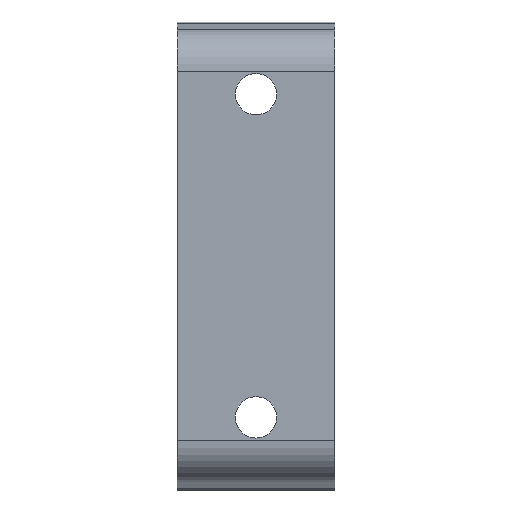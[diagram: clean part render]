
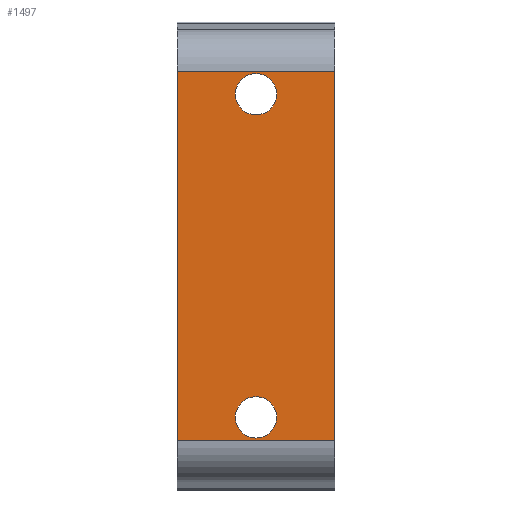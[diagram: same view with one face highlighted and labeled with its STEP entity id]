
A CAD part, top view. The second image highlights one B-rep face of the part: STEP entity #1497.
In plain terms, the highlighted planar face has unit normal (0, 0, 1).
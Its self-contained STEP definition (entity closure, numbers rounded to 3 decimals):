
#140 = VERTEX_POINT('',#141);
#141 = CARTESIAN_POINT('',(7.675,-12.5,0.75));
#147 = EDGE_CURVE('',#140,#140,#148,.T.);
#148 = CIRCLE('',#149,1.6);
#149 = AXIS2_PLACEMENT_3D('',#150,#151,#152);
#150 = CARTESIAN_POINT('',(6.075,-12.5,0.75));
#151 = DIRECTION('',(0.,0.,1.));
#152 = DIRECTION('',(-1.,0.,0.));
#651 = VERTEX_POINT('',#652);
#652 = CARTESIAN_POINT('',(0.,-14.273,0.75));
#681 = VERTEX_POINT('',#682);
#682 = CARTESIAN_POINT('',(12.15,-14.273,0.75));
#689 = EDGE_CURVE('',#681,#651,#690,.T.);
#690 = LINE('',#691,#692);
#691 = CARTESIAN_POINT('',(3.038,-14.273,0.75));
#692 = VECTOR('',#693,1.);
#693 = DIRECTION('',(-1.,0.,0.));
#753 = VERTEX_POINT('',#754);
#754 = CARTESIAN_POINT('',(12.15,14.273,0.75));
#760 = EDGE_CURVE('',#753,#681,#761,.T.);
#761 = LINE('',#762,#763);
#762 = CARTESIAN_POINT('',(12.15,0.,0.75));
#763 = VECTOR('',#764,1.);
#764 = DIRECTION('',(0.,-1.,0.));
#923 = VERTEX_POINT('',#924);
#924 = CARTESIAN_POINT('',(7.675,12.5,0.75));
#930 = EDGE_CURVE('',#923,#923,#931,.T.);
#931 = CIRCLE('',#932,1.6);
#932 = AXIS2_PLACEMENT_3D('',#933,#934,#935);
#933 = CARTESIAN_POINT('',(6.075,12.5,0.75));
#934 = DIRECTION('',(0.,0.,-1.));
#935 = DIRECTION('',(-1.,0.,0.));
#1410 = VERTEX_POINT('',#1411);
#1411 = CARTESIAN_POINT('',(0.,14.273,0.75));
#1418 = EDGE_CURVE('',#753,#1410,#1419,.T.);
#1419 = LINE('',#1420,#1421);
#1420 = CARTESIAN_POINT('',(3.038,14.273,0.75));
#1421 = VECTOR('',#1422,1.);
#1422 = DIRECTION('',(-1.,0.,0.));
#1497 = ADVANCED_FACE('',(#1498,#1509,#1512),#1515,.T.);
#1498 = FACE_BOUND('',#1499,.T.);
#1499 = EDGE_LOOP('',(#1500,#1501,#1507,#1508));
#1500 = ORIENTED_EDGE('',*,*,#1418,.T.);
#1501 = ORIENTED_EDGE('',*,*,#1502,.T.);
#1502 = EDGE_CURVE('',#1410,#651,#1503,.T.);
#1503 = LINE('',#1504,#1505);
#1504 = CARTESIAN_POINT('',(0.,17.,0.75));
#1505 = VECTOR('',#1506,1.);
#1506 = DIRECTION('',(0.,-1.,0.));
#1507 = ORIENTED_EDGE('',*,*,#689,.F.);
#1508 = ORIENTED_EDGE('',*,*,#760,.F.);
#1509 = FACE_BOUND('',#1510,.T.);
#1510 = EDGE_LOOP('',(#1511));
#1511 = ORIENTED_EDGE('',*,*,#147,.F.);
#1512 = FACE_BOUND('',#1513,.T.);
#1513 = EDGE_LOOP('',(#1514));
#1514 = ORIENTED_EDGE('',*,*,#930,.T.);
#1515 = PLANE('',#1516);
#1516 = AXIS2_PLACEMENT_3D('',#1517,#1518,#1519);
#1517 = CARTESIAN_POINT('',(6.075,8.5,0.75));
#1518 = DIRECTION('',(0.,0.,1.));
#1519 = DIRECTION('',(1.,0.,-0.));
